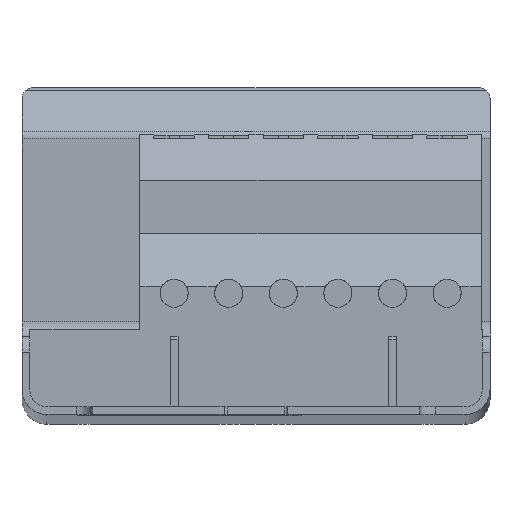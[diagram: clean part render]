
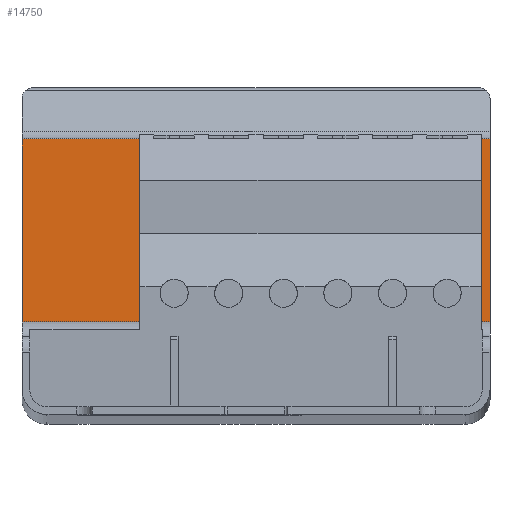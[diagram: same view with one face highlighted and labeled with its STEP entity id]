
A CAD part, top view. The second image highlights one B-rep face of the part: STEP entity #14750.
In plain terms, the highlighted planar face has unit normal (0, 0, 1).
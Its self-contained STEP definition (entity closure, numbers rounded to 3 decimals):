
#5110=DIRECTION('',(1.,0.,0.));
#5111=VECTOR('',#5110,30.);
#5112=CARTESIAN_POINT('',(-15.,6.,150.7));
#5113=LINE('',#5112,#5111);
#7167=DIRECTION('',(0.,1.,0.));
#7168=VECTOR('',#7167,11.71);
#7169=CARTESIAN_POINT('',(-15.,6.,150.7));
#7170=LINE('',#7169,#7168);
#7174=DIRECTION('',(1.,0.,0.));
#7175=VECTOR('',#7174,30.);
#7176=CARTESIAN_POINT('',(-15.,17.71,150.7));
#7177=LINE('',#7176,#7175);
#7181=DIRECTION('',(0.,-1.,0.));
#7182=VECTOR('',#7181,11.71);
#7183=CARTESIAN_POINT('',(15.,17.71,150.7));
#7184=LINE('',#7183,#7182);
#9146=CARTESIAN_POINT('',(-15.,17.71,150.7));
#9147=CARTESIAN_POINT('',(15.,17.71,150.7));
#9148=VERTEX_POINT('',#9146);
#9149=VERTEX_POINT('',#9147);
#9254=CARTESIAN_POINT('',(15.,6.,150.7));
#9255=VERTEX_POINT('',#9254);
#9256=CARTESIAN_POINT('',(-15.,6.,150.7));
#9257=VERTEX_POINT('',#9256);
#14738=CARTESIAN_POINT('',(-15.,5.45,150.7));
#14739=DIRECTION('',(0.,0.,1.));
#14740=DIRECTION('',(0.,1.,0.));
#14741=AXIS2_PLACEMENT_3D('',#14738,#14739,#14740);
#14742=PLANE('',#14741);
#14743=ORIENTED_EDGE('',*,*,#12980,.F.);
#14744=ORIENTED_EDGE('',*,*,#9331,.T.);
#14746=ORIENTED_EDGE('',*,*,#14745,.T.);
#14747=ORIENTED_EDGE('',*,*,#9511,.T.);
#14748=EDGE_LOOP('',(#14743,#14744,#14746,#14747));
#14749=FACE_OUTER_BOUND('',#14748,.F.);
#9331=EDGE_CURVE('',#9257,#9148,#7170,.T.);
#9511=EDGE_CURVE('',#9149,#9255,#7184,.T.);
#12980=EDGE_CURVE('',#9257,#9255,#5113,.T.);
#14745=EDGE_CURVE('',#9148,#9149,#7177,.T.);
#14750=ADVANCED_FACE('',(#14749),#14742,.T.);
